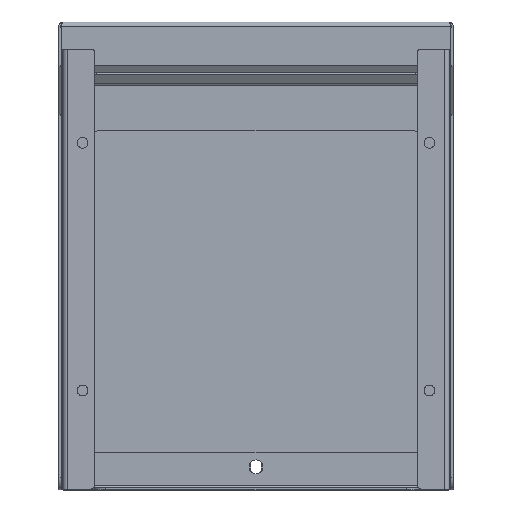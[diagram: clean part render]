
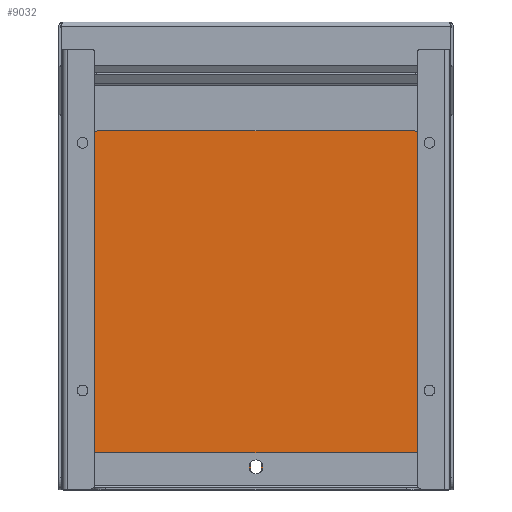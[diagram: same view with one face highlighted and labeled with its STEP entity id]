
A CAD part, top view. The second image highlights one B-rep face of the part: STEP entity #9032.
In plain terms, the highlighted planar face has unit normal (0, 0, 1) as drawn and (0, 0, -1) by its records, which use the part's own axes.
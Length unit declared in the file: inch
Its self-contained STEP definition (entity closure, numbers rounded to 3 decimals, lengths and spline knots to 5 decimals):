
#8149=CARTESIAN_POINT('',(3.60325,3.67625,-0.048));
#8150=DIRECTION('',(0.,0.,-1.));
#8151=DIRECTION('',(0.,1.,0.));
#8152=AXIS2_PLACEMENT_3D('',#8149,#8150,#8151);
#8157=DIRECTION('',(1.,0.,0.));
#8158=VECTOR('',#8157,7.2065);
#8159=CARTESIAN_POINT('',(-3.60325,3.92625,-0.048));
#8160=LINE('',#8159,#8158);
#8164=CARTESIAN_POINT('',(-3.60325,3.67625,-0.048));
#8165=DIRECTION('',(0.,0.,-1.));
#8166=DIRECTION('',(-1.,0.,0.));
#8167=AXIS2_PLACEMENT_3D('',#8164,#8165,#8166);
#8172=DIRECTION('',(0.,-1.,0.));
#8173=VECTOR('',#8172,0.23);
#8174=CARTESIAN_POINT('',(-3.85325,3.67625,-0.048));
#8175=LINE('',#8174,#8173);
#8179=DIRECTION('',(1.,0.,0.));
#8180=VECTOR('',#8179,0.029);
#8181=CARTESIAN_POINT('',(-3.88225,3.44625,-0.048));
#8182=LINE('',#8181,#8180);
#8186=DIRECTION('',(-1.,0.,0.));
#8187=VECTOR('',#8186,7.7645);
#8188=CARTESIAN_POINT('',(3.88225,-3.92625,-0.048));
#8189=LINE('',#8188,#8187);
#8193=DIRECTION('',(-1.,0.,0.));
#8194=VECTOR('',#8193,0.029);
#8195=CARTESIAN_POINT('',(3.88225,3.44625,-0.048));
#8196=LINE('',#8195,#8194);
#8200=DIRECTION('',(0.,-1.,0.));
#8201=VECTOR('',#8200,0.23);
#8202=CARTESIAN_POINT('',(3.85325,3.67625,-0.048));
#8203=LINE('',#8202,#8201);
#8207=DIRECTION('',(0.,1.,0.));
#8208=VECTOR('',#8207,0.047);
#8209=CARTESIAN_POINT('',(-0.109,-3.46125,-0.048));
#8210=LINE('',#8209,#8208);
#8214=CARTESIAN_POINT('',(0.,-3.41425,-0.048));
#8215=DIRECTION('',(0.,0.,1.));
#8216=DIRECTION('',(1.,0.,0.));
#8217=AXIS2_PLACEMENT_3D('',#8214,#8215,#8216);
#8222=DIRECTION('',(0.,-1.,0.));
#8223=VECTOR('',#8222,0.047);
#8224=CARTESIAN_POINT('',(0.109,-3.41425,-0.048));
#8225=LINE('',#8224,#8223);
#8229=DIRECTION('',(0.,-1.,0.));
#8230=VECTOR('',#8229,0.047);
#8231=CARTESIAN_POINT('',(0.109,-3.46125,-0.048));
#8232=LINE('',#8231,#8230);
#8236=CARTESIAN_POINT('',(0.,-3.50825,-0.048));
#8237=DIRECTION('',(0.,0.,1.));
#8238=DIRECTION('',(-1.,0.,0.));
#8239=AXIS2_PLACEMENT_3D('',#8236,#8237,#8238);
#8244=DIRECTION('',(0.,1.,0.));
#8245=VECTOR('',#8244,0.047);
#8246=CARTESIAN_POINT('',(-0.109,-3.50825,-0.048));
#8247=LINE('',#8246,#8245);
#8263=DIRECTION('',(0.,1.,0.));
#8264=VECTOR('',#8263,7.3725);
#8265=CARTESIAN_POINT('',(-3.88225,-3.92625,-0.048));
#8266=LINE('',#8265,#8264);
#8405=DIRECTION('',(0.,-1.,0.));
#8406=VECTOR('',#8405,7.3725);
#8407=CARTESIAN_POINT('',(3.88225,3.44625,-0.048));
#8408=LINE('',#8407,#8406);
#8581=CARTESIAN_POINT('',(3.88225,-3.92625,-0.048));
#8583=VERTEX_POINT('',#8581);
#8589=CARTESIAN_POINT('',(-3.88225,-3.92625,-0.048));
#8590=VERTEX_POINT('',#8589);
#8598=CARTESIAN_POINT('',(3.88225,3.44625,-0.048));
#8599=CARTESIAN_POINT('',(3.85325,3.44625,-0.048));
#8600=VERTEX_POINT('',#8598);
#8601=VERTEX_POINT('',#8599);
#8608=CARTESIAN_POINT('',(-3.88225,3.44625,-0.048));
#8609=CARTESIAN_POINT('',(-3.85325,3.44625,-0.048));
#8610=VERTEX_POINT('',#8608);
#8611=VERTEX_POINT('',#8609);
#8617=CARTESIAN_POINT('',(3.60325,3.92625,-0.048));
#8618=VERTEX_POINT('',#8617);
#8619=CARTESIAN_POINT('',(3.85325,3.67625,-0.048));
#8620=VERTEX_POINT('',#8619);
#8625=CARTESIAN_POINT('',(-3.85325,3.67625,-0.048));
#8626=VERTEX_POINT('',#8625);
#8627=CARTESIAN_POINT('',(-3.60325,3.92625,-0.048));
#8628=VERTEX_POINT('',#8627);
#8673=CARTESIAN_POINT('',(-0.109,-3.46125,-0.048));
#8674=CARTESIAN_POINT('',(-0.109,-3.41425,-0.048));
#8675=VERTEX_POINT('',#8673);
#8676=VERTEX_POINT('',#8674);
#8677=CARTESIAN_POINT('',(0.109,-3.41425,-0.048));
#8678=VERTEX_POINT('',#8677);
#8679=CARTESIAN_POINT('',(0.109,-3.46125,-0.048));
#8680=VERTEX_POINT('',#8679);
#8681=CARTESIAN_POINT('',(0.109,-3.50825,-0.048));
#8682=VERTEX_POINT('',#8681);
#8683=CARTESIAN_POINT('',(-0.109,-3.50825,-0.048));
#8684=VERTEX_POINT('',#8683);
#8999=CARTESIAN_POINT('',(0.,0.,-0.048));
#9000=DIRECTION('',(0.,0.,1.));
#9001=DIRECTION('',(1.,0.,0.));
#9002=AXIS2_PLACEMENT_3D('',#8999,#9000,#9001);
#9003=PLANE('',#9002);
#9004=ORIENTED_EDGE('',*,*,#8735,.F.);
#9005=ORIENTED_EDGE('',*,*,#8751,.F.);
#9006=ORIENTED_EDGE('',*,*,#8764,.F.);
#9007=ORIENTED_EDGE('',*,*,#8779,.T.);
#9008=ORIENTED_EDGE('',*,*,#8792,.F.);
#9010=ORIENTED_EDGE('',*,*,#9009,.F.);
#9011=ORIENTED_EDGE('',*,*,#8887,.F.);
#9013=ORIENTED_EDGE('',*,*,#9012,.F.);
#9014=ORIENTED_EDGE('',*,*,#8980,.T.);
#9015=ORIENTED_EDGE('',*,*,#8992,.F.);
#9016=EDGE_LOOP('',(#9004,#9005,#9006,#9007,#9008,#9010,#9011,#9013,#9014,
#9015));
#9017=FACE_OUTER_BOUND('',#9016,.F.);
#9019=ORIENTED_EDGE('',*,*,#9018,.T.);
#9021=ORIENTED_EDGE('',*,*,#9020,.F.);
#9023=ORIENTED_EDGE('',*,*,#9022,.T.);
#9025=ORIENTED_EDGE('',*,*,#9024,.T.);
#9027=ORIENTED_EDGE('',*,*,#9026,.F.);
#9029=ORIENTED_EDGE('',*,*,#9028,.T.);
#9030=EDGE_LOOP('',(#9019,#9021,#9023,#9025,#9027,#9029));
#9031=FACE_BOUND('',#9030,.F.);
#8153=CIRCLE('',#8152,0.25);
#8168=CIRCLE('',#8167,0.25);
#8218=CIRCLE('',#8217,0.109);
#8240=CIRCLE('',#8239,0.109);
#8735=EDGE_CURVE('',#8618,#8620,#8153,.T.);
#8751=EDGE_CURVE('',#8628,#8618,#8160,.T.);
#8764=EDGE_CURVE('',#8626,#8628,#8168,.T.);
#8779=EDGE_CURVE('',#8626,#8611,#8175,.T.);
#8792=EDGE_CURVE('',#8610,#8611,#8182,.T.);
#8887=EDGE_CURVE('',#8583,#8590,#8189,.T.);
#8980=EDGE_CURVE('',#8600,#8601,#8196,.T.);
#8992=EDGE_CURVE('',#8620,#8601,#8203,.T.);
#9009=EDGE_CURVE('',#8590,#8610,#8266,.T.);
#9012=EDGE_CURVE('',#8600,#8583,#8408,.T.);
#9018=EDGE_CURVE('',#8675,#8676,#8210,.T.);
#9020=EDGE_CURVE('',#8678,#8676,#8218,.T.);
#9022=EDGE_CURVE('',#8678,#8680,#8225,.T.);
#9024=EDGE_CURVE('',#8680,#8682,#8232,.T.);
#9026=EDGE_CURVE('',#8684,#8682,#8240,.T.);
#9028=EDGE_CURVE('',#8684,#8675,#8247,.T.);
#9032=ADVANCED_FACE('',(#9017,#9031),#9003,.F.);
